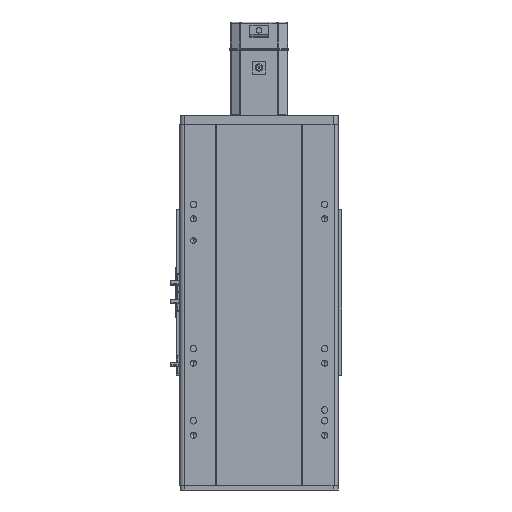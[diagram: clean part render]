
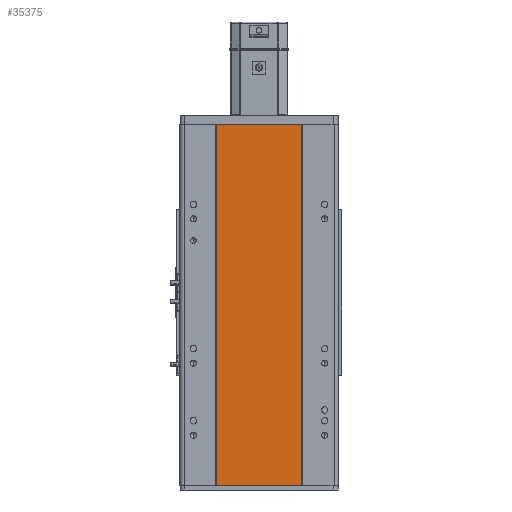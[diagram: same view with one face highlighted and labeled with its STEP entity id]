
A CAD part, front view. The second image highlights one B-rep face of the part: STEP entity #35375.
In plain terms, the highlighted planar face has unit normal (0, -1, 0).
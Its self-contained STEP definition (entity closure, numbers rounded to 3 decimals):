
#364 = DIRECTION ( 'NONE',  ( 0., 0., -1. ) ) ;
#373 = VECTOR ( 'NONE', #23903, 1000. ) ;
#900 = CARTESIAN_POINT ( 'NONE',  ( -59., 1., 250.5 ) ) ;
#2271 = VERTEX_POINT ( 'NONE', #30285 ) ;
#2369 = EDGE_CURVE ( 'NONE', #2271, #18351, #21711, .T. ) ;
#4027 = ORIENTED_EDGE ( 'NONE', *, *, #2369, .F. ) ;
#4877 = FACE_OUTER_BOUND ( 'NONE', #9624, .T. ) ;
#5732 = LINE ( 'NONE', #11910, #6141 ) ;
#6141 = VECTOR ( 'NONE', #364, 1000. ) ;
#6979 = AXIS2_PLACEMENT_3D ( 'NONE', #28023, #11335, #8624 ) ;
#7807 = LINE ( 'NONE', #32176, #373 ) ;
#8500 = PLANE ( 'NONE',  #6979 ) ;
#8624 = DIRECTION ( 'NONE',  ( -1., 0., 0. ) ) ;
#9624 = EDGE_LOOP ( 'NONE', ( #10843, #4027, #21949, #30959 ) ) ;
#10450 = VERTEX_POINT ( 'NONE', #31268 ) ;
#10792 = CARTESIAN_POINT ( 'NONE',  ( 59., 1., 250.5 ) ) ;
#10843 = ORIENTED_EDGE ( 'NONE', *, *, #29743, .T. ) ;
#11335 = DIRECTION ( 'NONE',  ( 0., 1., 0. ) ) ;
#11910 = CARTESIAN_POINT ( 'NONE',  ( -59., 1., 250.5 ) ) ;
#14256 = EDGE_CURVE ( 'NONE', #34197, #2271, #7807, .T. ) ;
#16543 = DIRECTION ( 'NONE',  ( 0., 0., -1. ) ) ;
#16909 = VECTOR ( 'NONE', #33829, 1000. ) ;
#18351 = VERTEX_POINT ( 'NONE', #19806 ) ;
#19806 = CARTESIAN_POINT ( 'NONE',  ( 59., 1., -250.5 ) ) ;
#20851 = VECTOR ( 'NONE', #16543, 1000. ) ;
#21711 = LINE ( 'NONE', #10792, #20851 ) ;
#21949 = ORIENTED_EDGE ( 'NONE', *, *, #14256, .F. ) ;
#23903 = DIRECTION ( 'NONE',  ( 1., 0., 0. ) ) ;
#28023 = CARTESIAN_POINT ( 'NONE',  ( -59., 1., 250.5 ) ) ;
#28106 = CARTESIAN_POINT ( 'NONE',  ( -59., 1., -250.5 ) ) ;
#29743 = EDGE_CURVE ( 'NONE', #10450, #18351, #35998, .T. ) ;
#30285 = CARTESIAN_POINT ( 'NONE',  ( 59., 1., 250.5 ) ) ;
#30959 = ORIENTED_EDGE ( 'NONE', *, *, #32842, .T. ) ;
#31268 = CARTESIAN_POINT ( 'NONE',  ( -59., 1., -250.5 ) ) ;
#32176 = CARTESIAN_POINT ( 'NONE',  ( -59., 1., 250.5 ) ) ;
#32842 = EDGE_CURVE ( 'NONE', #34197, #10450, #5732, .T. ) ;
#33829 = DIRECTION ( 'NONE',  ( 1., 0., 0. ) ) ;
#34197 = VERTEX_POINT ( 'NONE', #900 ) ;
#35375 = ADVANCED_FACE ( 'NONE', ( #4877 ), #8500, .F. ) ;
#35998 = LINE ( 'NONE', #28106, #16909 ) ;
